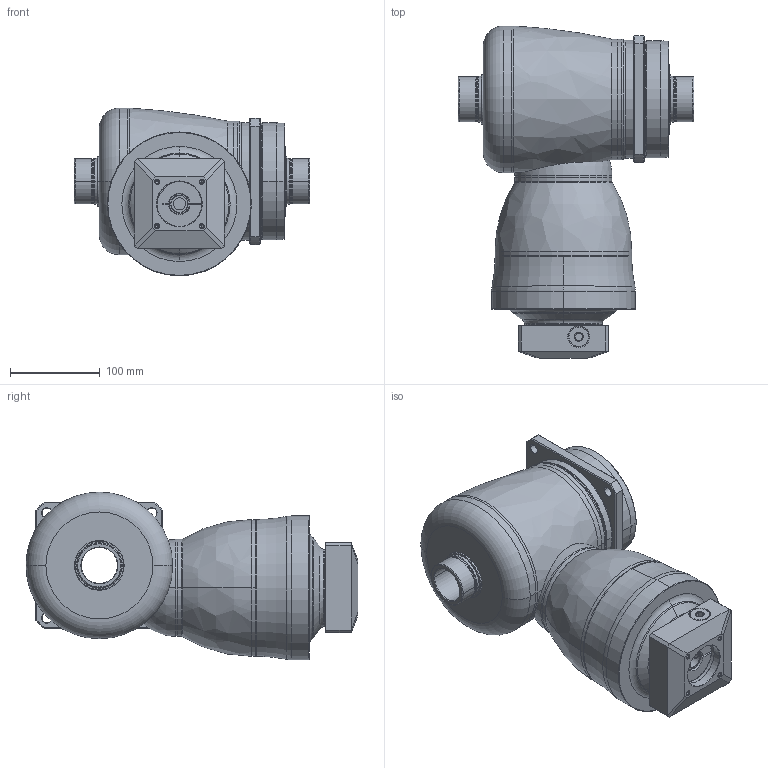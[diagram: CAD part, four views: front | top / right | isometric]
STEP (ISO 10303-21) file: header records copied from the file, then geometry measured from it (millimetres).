
FILE_DESCRIPTION((''),'2;1');
FILE_NAME('KF140_S4_2ST_19-P0409410101_ASM','2016-07-25T',('d01943'),(''),'PRO/ENGINEER BY PARAMETRIC TECHNOLOGY CORPORATION, 2008410','PRO/ENGINEER BY PARAMETRIC TECHNOLOGY CORPORATION, 2008410','');
FILE_SCHEMA(('CONFIG_CONTROL_DESIGN'));
Length unit declared in the file: millimetre
Products named in the file (11): P1008500002; P1804500001; P0914500001; P1315500001; P1007500001; P1317500001; P0409410101; P0503400008; P0912400001; 21711416017; KF140_S4_2ST_19-P0409410101_ASM
Assembly tree (10 placements, depth 2):
  KF140_S4_2ST_19-P0409410101_ASM
    P1008500002
    P1804500001
    P0914500001
    P1315500001
    P1007500001
    P1317500001
    P0409410101
    P0503400008
    P0912400001
    21711416017
Bounding box: 262 x 369 x 186.5 mm (x, y, z)
Volume: 5241436 mm3; surface area: 578335.2 mm2
Topology: 11 solids, 11 shells, 498 faces, 1098 edges, 644 vertices
Faces by surface type: cylinder 166, cone 134, plane 99, torus 74, bspline 23, sphere 2
Entity records: 18664 total; most frequent: CARTESIAN_POINT 7393, DIRECTION 2523, ORIENTED_EDGE 2160, EDGE_CURVE 1080, AXIS2_PLACEMENT_3D 1074, VERTEX_POINT 644, CIRCLE 578, EDGE_LOOP 568
